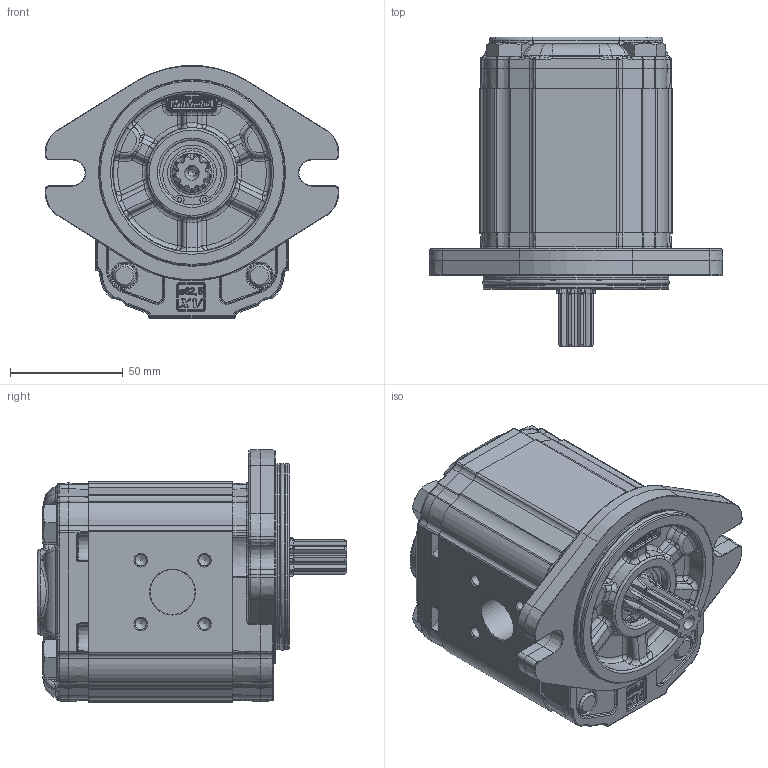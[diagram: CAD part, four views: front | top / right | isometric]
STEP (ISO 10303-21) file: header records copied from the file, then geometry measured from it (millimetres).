
FILE_DESCRIPTION(/* description */ ('Unknown'),/* implementation_level */ '2;1');
FILE_NAME(/* name */ 'X2P4952ISRA',/* time_stamp */ '2026-06-03T17:50:51+02:00',/* author */ ('Unknown'),/* organization */ ('Unknown'),/* preprocessor_version */ 'ST-DEVELOPER v16.7',/* originating_system */ 'Solid Edge',/* authorisation */ 'Unknown');
FILE_SCHEMA (('AUTOMOTIVE_DESIGN {1 0 10303 214 3 1 1}'));
Products named in the file (5): X2P4952ISRA; X2P52; 2I; X2SRH64; XP219-A
Assembly tree (4 placements, depth 2):
  X2P4952ISRA
    X2P52
    2I
    X2SRH64
    XP219-A
Bounding box: 130.38 x 137.7 x 112.3 mm (x, y, z)
Volume: 779456.4 mm3; surface area: 120797.7 mm2
Topology: 4 solids, 12 shells, 3118 faces, 7566 edges, 4495 vertices
Faces by surface type: cylinder 899, bspline 795, plane 720, cone 305, torus 293, sphere 106
Full cylindrical faces by diameter (mm): 2 x2, 5 x8, 8.5 x6, 10 x8, 10.5 x8, 15 x1, 16 x4, 17.42 x1, 17.48 x2, 18.724 x1, 20 x1, 20.595 x1, 21.741 x1, 25 x1, 25.834 x1, 28.56 x1, 28.57 x1, 28.8 x1, 30.4 x1, 79.6 x2, 82.5 x2
Entity records: 148399 total; most frequent: CARTESIAN_POINT 61929, ORIENTED_EDGE 14454, DIRECTION 12044, EDGE_CURVE 7227, AXIS2_PLACEMENT_3D 4842, VERTEX_POINT 4419, FACE_BOUND 3420, EDGE_LOOP 3410
